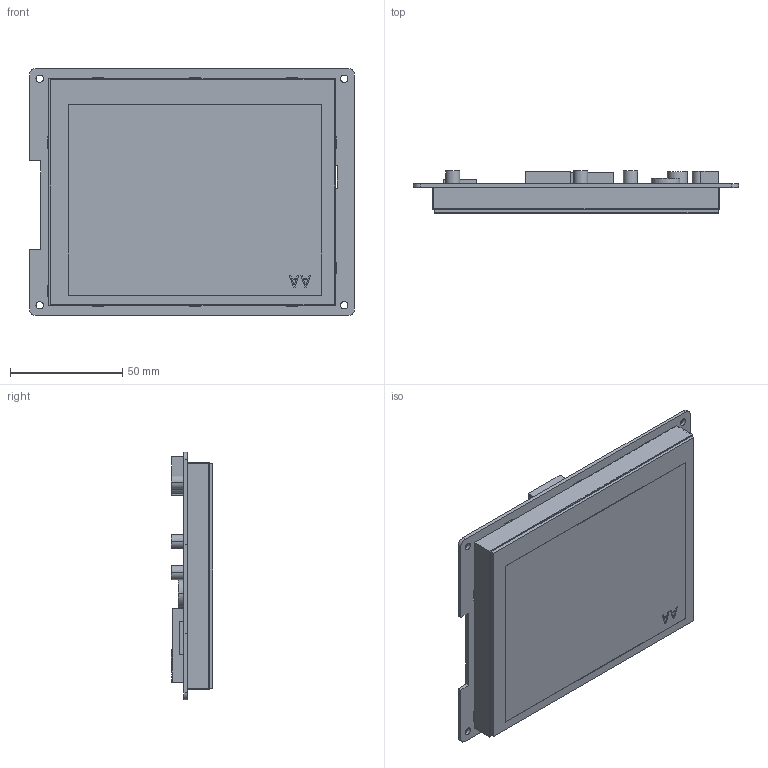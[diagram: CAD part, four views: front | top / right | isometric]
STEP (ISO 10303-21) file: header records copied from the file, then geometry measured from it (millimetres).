
FILE_DESCRIPTION((''),'2;1');
FILE_NAME('DMG64480K050-03WTC_ASM','2022-02-21T',('Administrator'),(''),'PRO/ENGINEER BY PARAMETRIC TECHNOLOGY CORPORATION, 2014320','PRO/ENGINEER BY PARAMETRIC TECHNOLOGY CORPORATION, 2014320','');
FILE_SCHEMA(('CONFIG_CONTROL_DESIGN','SHAPE_APPEARANCE_LAYERS_GROUPS'));
Length unit declared in the file: millimetre
Products named in the file (5): TK056004; AT056TN52; PCB; RTP1; DMG64480K050-03WTC_ASM
Assembly tree (4 placements, depth 2):
  DMG64480K050-03WTC_ASM
    TK056004
    AT056TN52
    PCB
    RTP1
Bounding box: 144.78 x 18.65 x 110.24 mm (x, y, z)
Volume: 125873.9 mm3; surface area: 103430.6 mm2
Topology: 4 solids, 4 shells, 205 faces, 522 edges, 348 vertices
Faces by surface type: plane 177, cylinder 28
Entity records: 6379 total; most frequent: CARTESIAN_POINT 1084, ORIENTED_EDGE 1044, DIRECTION 1006, EDGE_CURVE 522, VECTOR 466, LINE 466, VERTEX_POINT 348, AXIS2_PLACEMENT_3D 270
